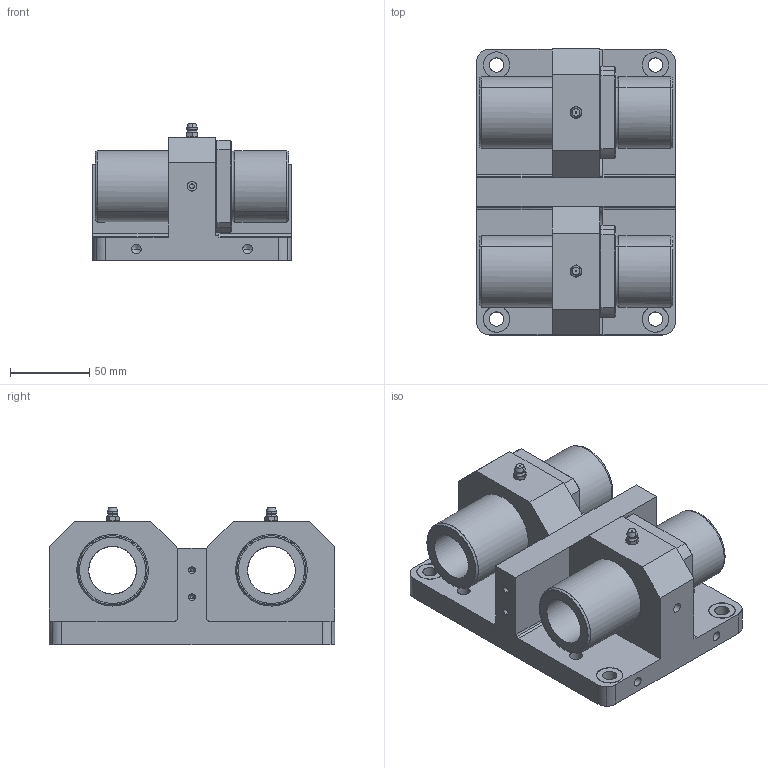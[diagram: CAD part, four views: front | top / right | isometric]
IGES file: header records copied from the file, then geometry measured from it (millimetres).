
Global section: file name: No Iges File Name specified; native system: AutoDesk Inventor R10; preprocessor: AutoDesk Inventor Iges Exporter R10; author: No Author specified; organization: No Organization specified; date: 20101227.100657; units: millimetre
Bounding box: 125 x 180 x 86.8 mm (x, y, z)
Surface area: 172123.7 mm2 (no closed solid volume)
Topology: 0 solids, 0 shells, 580 faces, 3758 edges, 3700 vertices
Faces by surface type: bspline 580
